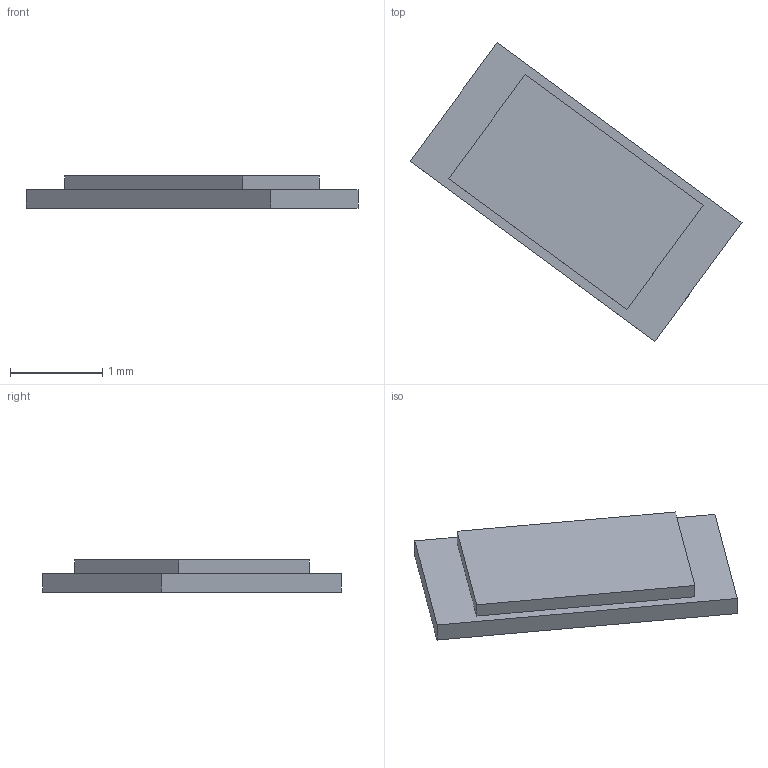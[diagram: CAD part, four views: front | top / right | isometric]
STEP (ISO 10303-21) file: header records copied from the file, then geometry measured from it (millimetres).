
FILE_DESCRIPTION(('FreeCAD Model'),'2;1');
FILE_NAME('Open CASCADE Shape Model','2026-10-23T21:15:57',('FreeCAD'),( 'FreeCAD'),'Open CASCADE STEP processor 7.8','FreeCAD','Unknown');
FILE_SCHEMA(('AUTOMOTIVE_DESIGN { 1 0 10303 214 1 1 1 1 }'));
Length unit declared in the file: millimetre
Products named in the file (1): Open CASCADE STEP translator 7.8 17
Bounding box: 3.61 x 3.24 x 0.35 mm (x, y, z)
Volume: 1 mm3; surface area: 15 mm2
Topology: 1 solids, 1 shells, 16 faces, 36 edges, 24 vertices
Faces by surface type: plane 16
Entity records: 450 total; most frequent: CARTESIAN_POINT 77, ORIENTED_EDGE 72, DIRECTION 70, EDGE_CURVE 36, LINE 36, VECTOR 36, VERTEX_POINT 24, FACE_BOUND 18
